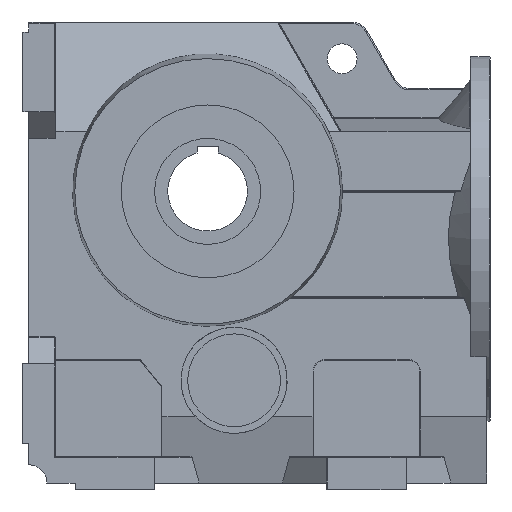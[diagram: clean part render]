
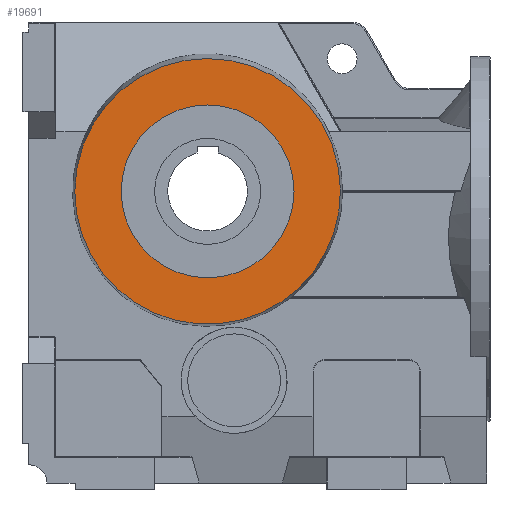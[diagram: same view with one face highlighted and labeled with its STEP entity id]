
A CAD part, front view. The second image highlights one B-rep face of the part: STEP entity #19691.
In plain terms, the highlighted planar face has unit normal (0, -1, 0).
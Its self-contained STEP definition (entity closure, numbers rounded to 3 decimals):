
#19648=CARTESIAN_POINT('',(59.89,-247.,450.0));
#19649=VERTEX_POINT('',#19648);
#19650=CARTESIAN_POINT('',(-70.5,-247.,450.0));
#19651=DIRECTION('',(0.0,1.0,0.0));
#19652=DIRECTION('',(-1.0,0.0,0.0));
#19653=AXIS2_PLACEMENT_3D('',#19650,#19651,#19652);
#19654=CIRCLE('',#19653,130.39);
#19655=EDGE_CURVE('',#19649,#19649,#19654,.T.);
#19672=CARTESIAN_POINT('',(-70.5,-247.,450.0));
#19673=DIRECTION('',(0.0,-1.0,0.0));
#19674=DIRECTION('',(0.0,0.0,-1.0));
#19675=AXIS2_PLACEMENT_3D('',#19672,#19673,#19674);
#19676=PLANE('',#19675);
#19677=CARTESIAN_POINT('',(-270.89,-247.,450.0));
#19678=VERTEX_POINT('',#19677);
#19679=CARTESIAN_POINT('',(-70.5,-247.,450.0));
#19680=DIRECTION('',(0.0,1.0,0.0));
#19681=DIRECTION('',(1.0,0.0,0.0));
#19682=AXIS2_PLACEMENT_3D('',#19679,#19680,#19681);
#19683=CIRCLE('',#19682,200.39);
#19684=EDGE_CURVE('',#19678,#19678,#19683,.T.);
#19685=ORIENTED_EDGE('',*,*,#19684,.F.);
#19686=EDGE_LOOP('',(#19685));
#19687=FACE_OUTER_BOUND('',#19686,.T.);
#19688=ORIENTED_EDGE('',*,*,#19655,.T.);
#19689=EDGE_LOOP('',(#19688));
#19690=FACE_BOUND('',#19689,.T.);
#19691=ADVANCED_FACE('',(#19687,#19690),#19676,.T.);
